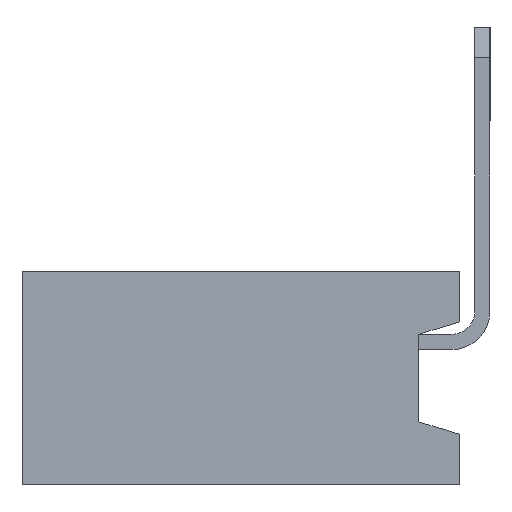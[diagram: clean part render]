
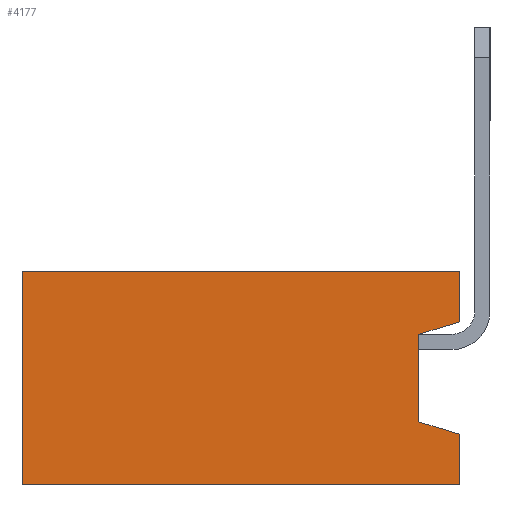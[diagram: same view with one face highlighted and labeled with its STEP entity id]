
A CAD part, left-side view. The second image highlights one B-rep face of the part: STEP entity #4177.
In plain terms, the highlighted planar face has unit normal (-1, 0, 0).
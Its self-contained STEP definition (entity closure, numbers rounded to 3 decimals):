
#293=FACE_OUTER_BOUND('',#523,.T.);
#523=EDGE_LOOP('',(#3526,#3527,#3528,#3529,#3530,#3531,#3532,#3533));
#1031=LINE('',#6632,#1572);
#1032=LINE('',#6634,#1573);
#1033=LINE('',#6636,#1574);
#1034=LINE('',#6638,#1575);
#1035=LINE('',#6640,#1576);
#1036=LINE('',#6642,#1577);
#1037=LINE('',#6644,#1578);
#1038=LINE('',#6645,#1579);
#1572=VECTOR('',#5454,10.);
#1573=VECTOR('',#5455,10.);
#1574=VECTOR('',#5456,10.);
#1575=VECTOR('',#5457,10.);
#1576=VECTOR('',#5458,10.);
#1577=VECTOR('',#5459,10.);
#1578=VECTOR('',#5460,10.);
#1579=VECTOR('',#5461,10.);
#1973=VERTEX_POINT('',#6630);
#1974=VERTEX_POINT('',#6631);
#1975=VERTEX_POINT('',#6633);
#1976=VERTEX_POINT('',#6635);
#1977=VERTEX_POINT('',#6637);
#1978=VERTEX_POINT('',#6639);
#1979=VERTEX_POINT('',#6641);
#1980=VERTEX_POINT('',#6643);
#2521=EDGE_CURVE('',#1973,#1974,#1031,.T.);
#2522=EDGE_CURVE('',#1975,#1973,#1032,.T.);
#2523=EDGE_CURVE('',#1976,#1975,#1033,.T.);
#2524=EDGE_CURVE('',#1977,#1976,#1034,.T.);
#2525=EDGE_CURVE('',#1978,#1977,#1035,.T.);
#2526=EDGE_CURVE('',#1979,#1978,#1036,.T.);
#2527=EDGE_CURVE('',#1980,#1979,#1037,.T.);
#2528=EDGE_CURVE('',#1974,#1980,#1038,.T.);
#3526=ORIENTED_EDGE('',*,*,#2521,.F.);
#3527=ORIENTED_EDGE('',*,*,#2522,.F.);
#3528=ORIENTED_EDGE('',*,*,#2523,.F.);
#3529=ORIENTED_EDGE('',*,*,#2524,.F.);
#3530=ORIENTED_EDGE('',*,*,#2525,.F.);
#3531=ORIENTED_EDGE('',*,*,#2526,.F.);
#3532=ORIENTED_EDGE('',*,*,#2527,.F.);
#3533=ORIENTED_EDGE('',*,*,#2528,.F.);
#3949=PLANE('',#4467);
#4177=ADVANCED_FACE('',(#293),#3949,.F.);
#4467=AXIS2_PLACEMENT_3D('',#6629,#5452,#5453);
#5452=DIRECTION('center_axis',(1.,0.,0.));
#5453=DIRECTION('ref_axis',(0.,0.,-1.));
#5454=DIRECTION('',(0.,0.,-1.));
#5455=DIRECTION('',(0.,0.956,-0.292));
#5456=DIRECTION('',(0.,0.,-1.));
#5457=DIRECTION('',(0.,-1.,0.));
#5458=DIRECTION('',(0.,0.,1.));
#5459=DIRECTION('',(0.,1.,0.));
#5460=DIRECTION('',(0.,0.,-1.));
#5461=DIRECTION('',(0.,-0.956,-0.292));
#6629=CARTESIAN_POINT('Origin',(-6.35,-0.001,0.002));
#6630=CARTESIAN_POINT('',(-6.35,0.4,-0.62));
#6631=CARTESIAN_POINT('',(-6.35,0.4,-1.48));
#6632=CARTESIAN_POINT('',(-6.35,0.4,-0.309));
#6633=CARTESIAN_POINT('',(-6.35,0.,-0.498));
#6634=CARTESIAN_POINT('',(-6.35,-0.07,-0.476));
#6635=CARTESIAN_POINT('',(-6.35,0.,0.));
#6636=CARTESIAN_POINT('',(-6.35,0.,-0.524));
#6637=CARTESIAN_POINT('',(-6.35,4.3,0.));
#6638=CARTESIAN_POINT('',(-6.35,0.,0.));
#6639=CARTESIAN_POINT('',(-6.35,4.3,-2.1));
#6640=CARTESIAN_POINT('',(-6.35,4.3,-0.524));
#6641=CARTESIAN_POINT('',(-6.35,0.,-2.1));
#6642=CARTESIAN_POINT('',(-6.35,0.,-2.1));
#6643=CARTESIAN_POINT('',(-6.35,0.,-1.602));
#6644=CARTESIAN_POINT('',(-6.35,0.,-0.524));
#6645=CARTESIAN_POINT('',(-6.35,0.424,-1.473));
